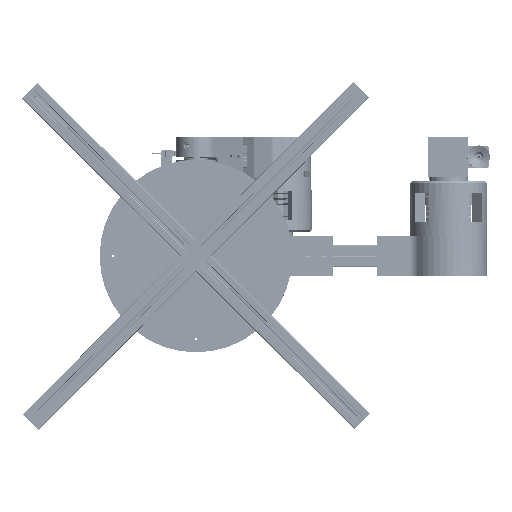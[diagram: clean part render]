
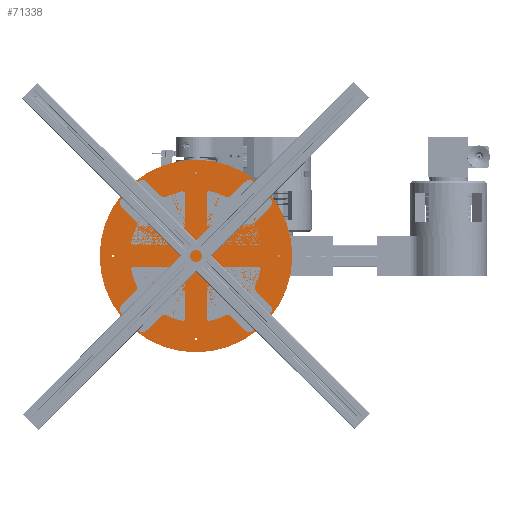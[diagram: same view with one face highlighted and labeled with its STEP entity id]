
A CAD part, top view. The second image highlights one B-rep face of the part: STEP entity #71338.
In plain terms, the highlighted planar face has unit normal (0, 0, 1) as drawn and (0, 0, -1) by its records, which use the part's own axes.
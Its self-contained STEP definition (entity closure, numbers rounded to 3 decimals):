
#9265=FACE_BOUND('',#16011,.T.);
#9266=FACE_BOUND('',#16012,.T.);
#9267=FACE_BOUND('',#16013,.T.);
#9268=FACE_BOUND('',#16014,.T.);
#9269=FACE_BOUND('',#16015,.T.);
#9270=FACE_BOUND('',#16016,.T.);
#9271=FACE_BOUND('',#16017,.T.);
#9272=FACE_BOUND('',#16018,.T.);
#12132=FACE_OUTER_BOUND('',#16010,.T.);
#16010=EDGE_LOOP('',(#61214));
#16011=EDGE_LOOP('',(#61215));
#16012=EDGE_LOOP('',(#61216));
#16013=EDGE_LOOP('',(#61217));
#16014=EDGE_LOOP('',(#61218));
#16015=EDGE_LOOP('',(#61219));
#16016=EDGE_LOOP('',(#61220));
#16017=EDGE_LOOP('',(#61221));
#16018=EDGE_LOOP('',(#61222));
#18304=CIRCLE('',#76982,87.2);
#18305=CIRCLE('',#76985,1.);
#18307=CIRCLE('',#76988,1.);
#18309=CIRCLE('',#76991,1.);
#18311=CIRCLE('',#76994,1.);
#18313=CIRCLE('',#76997,1.);
#18315=CIRCLE('',#77000,1.);
#18317=CIRCLE('',#77003,1.);
#18319=CIRCLE('',#77006,1.);
#37279=VERTEX_POINT('',#117968);
#37280=VERTEX_POINT('',#117973);
#37282=VERTEX_POINT('',#117979);
#37284=VERTEX_POINT('',#117985);
#37286=VERTEX_POINT('',#117991);
#37288=VERTEX_POINT('',#117997);
#37290=VERTEX_POINT('',#118003);
#37292=VERTEX_POINT('',#118009);
#37294=VERTEX_POINT('',#118015);
#45547=EDGE_CURVE('',#37279,#37279,#18304,.T.);
#45548=EDGE_CURVE('',#37280,#37280,#18305,.T.);
#45551=EDGE_CURVE('',#37282,#37282,#18307,.T.);
#45554=EDGE_CURVE('',#37284,#37284,#18309,.T.);
#45557=EDGE_CURVE('',#37286,#37286,#18311,.T.);
#45560=EDGE_CURVE('',#37288,#37288,#18313,.T.);
#45563=EDGE_CURVE('',#37290,#37290,#18315,.T.);
#45566=EDGE_CURVE('',#37292,#37292,#18317,.T.);
#45569=EDGE_CURVE('',#37294,#37294,#18319,.T.);
#61214=ORIENTED_EDGE('',*,*,#45547,.T.);
#61215=ORIENTED_EDGE('',*,*,#45548,.T.);
#61216=ORIENTED_EDGE('',*,*,#45551,.T.);
#61217=ORIENTED_EDGE('',*,*,#45554,.T.);
#61218=ORIENTED_EDGE('',*,*,#45557,.T.);
#61219=ORIENTED_EDGE('',*,*,#45560,.T.);
#61220=ORIENTED_EDGE('',*,*,#45563,.T.);
#61221=ORIENTED_EDGE('',*,*,#45566,.T.);
#61222=ORIENTED_EDGE('',*,*,#45569,.T.);
#68091=PLANE('',#77009);
#71338=ADVANCED_FACE('',(#12132,#9265,#9266,#9267,#9268,#9269,#9270,#9271,
#9272),#68091,.F.);
#76982=AXIS2_PLACEMENT_3D('',#117970,#92633,#92634);
#76985=AXIS2_PLACEMENT_3D('',#117974,#92639,#92640);
#76988=AXIS2_PLACEMENT_3D('',#117980,#92646,#92647);
#76991=AXIS2_PLACEMENT_3D('',#117986,#92653,#92654);
#76994=AXIS2_PLACEMENT_3D('',#117992,#92660,#92661);
#76997=AXIS2_PLACEMENT_3D('',#117998,#92667,#92668);
#77000=AXIS2_PLACEMENT_3D('',#118004,#92674,#92675);
#77003=AXIS2_PLACEMENT_3D('',#118010,#92681,#92682);
#77006=AXIS2_PLACEMENT_3D('',#118016,#92688,#92689);
#77009=AXIS2_PLACEMENT_3D('',#118021,#92695,#92696);
#92633=DIRECTION('center_axis',(0.,0.,
-1.));
#92634=DIRECTION('ref_axis',(-1.,0.,0.));
#92639=DIRECTION('center_axis',(0.,0.,
1.));
#92640=DIRECTION('ref_axis',(-0.707,0.707,0.));
#92646=DIRECTION('center_axis',(0.,0.,
1.));
#92647=DIRECTION('ref_axis',(0.,1.,0.));
#92653=DIRECTION('center_axis',(0.,0.,
1.));
#92654=DIRECTION('ref_axis',(0.707,0.707,0.));
#92660=DIRECTION('center_axis',(0.,0.,
1.));
#92661=DIRECTION('ref_axis',(1.,0.,0.));
#92667=DIRECTION('center_axis',(0.,0.,
1.));
#92668=DIRECTION('ref_axis',(0.707,-0.707,0.));
#92674=DIRECTION('center_axis',(0.,0.,
1.));
#92675=DIRECTION('ref_axis',(0.,-1.,0.));
#92681=DIRECTION('center_axis',(0.,0.,
1.));
#92682=DIRECTION('ref_axis',(-0.707,-0.707,0.));
#92688=DIRECTION('center_axis',(0.,0.,
1.));
#92689=DIRECTION('ref_axis',(-1.,0.,0.));
#92695=DIRECTION('center_axis',(0.,0.,
1.));
#92696=DIRECTION('ref_axis',(1.,0.,0.));
#117968=CARTESIAN_POINT('',(87.2,0.,0.));
#117970=CARTESIAN_POINT('Origin',(0.,0.,
0.));
#117973=CARTESIAN_POINT('',(-52.326,52.326,0.));
#117974=CARTESIAN_POINT('Origin',(-53.033,53.033,0.));
#117979=CARTESIAN_POINT('',(0.,74.,0.));
#117980=CARTESIAN_POINT('Origin',(0.,75.,
0.));
#117985=CARTESIAN_POINT('',(52.326,52.326,0.));
#117986=CARTESIAN_POINT('Origin',(53.033,53.033,0.));
#117991=CARTESIAN_POINT('',(74.,0.,0.));
#117992=CARTESIAN_POINT('Origin',(75.,0.,
0.));
#117997=CARTESIAN_POINT('',(52.326,-52.326,0.));
#117998=CARTESIAN_POINT('Origin',(53.033,-53.033,0.));
#118003=CARTESIAN_POINT('',(0.,-74.,0.));
#118004=CARTESIAN_POINT('Origin',(0.,-75.,
0.));
#118009=CARTESIAN_POINT('',(-52.326,-52.326,0.));
#118010=CARTESIAN_POINT('Origin',(-53.033,-53.033,0.));
#118015=CARTESIAN_POINT('',(-74.,0.,0.));
#118016=CARTESIAN_POINT('Origin',(-75.,0.,
0.));
#118021=CARTESIAN_POINT('Origin',(0.,0.,
0.));
